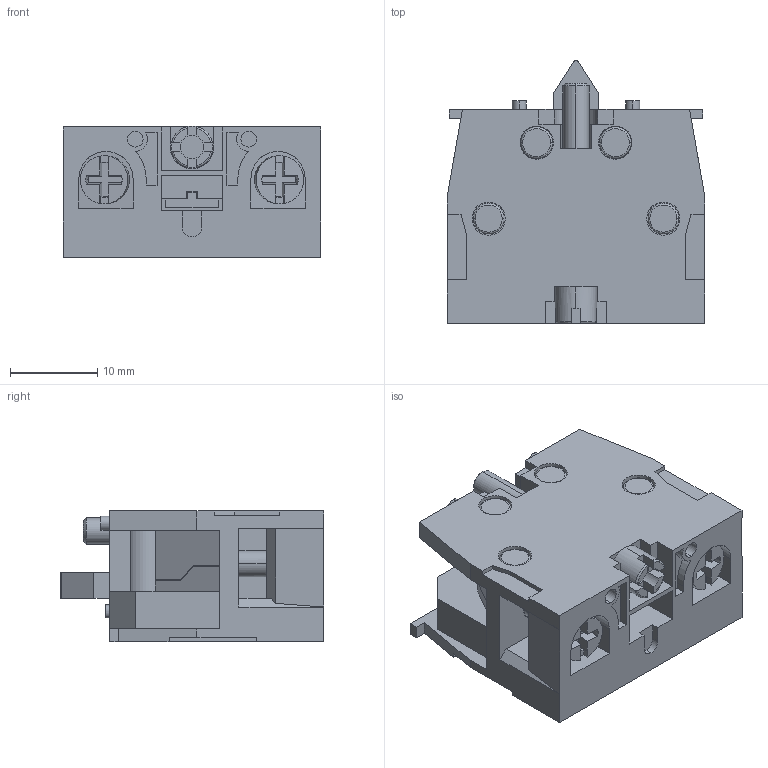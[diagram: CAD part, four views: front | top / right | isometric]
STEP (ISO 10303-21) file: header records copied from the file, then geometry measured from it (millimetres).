
FILE_DESCRIPTION (( 'STEP AP214' ), '1' );
FILE_NAME ('3D 斁麧錪 MTB2-BE11.STEP', '2017-03-03T07:00:25', ( 'adm' ), ( 'MICROSOFT' ), 'SwSTEP 2.0', 'SolidWorks 2011', '' );
FILE_SCHEMA (( 'AUTOMOTIVE_DESIGN' ));
Length unit declared in the file: millimetre
Products named in the file (1): 3D 斁麧錪 MTB2-BE11
Bounding box: 29.5 x 30.14 x 15.1 mm (x, y, z)
Volume: 8415.8 mm3; surface area: 5423.6 mm2
Topology: 2 solids, 2 shells, 363 faces, 952 edges, 620 vertices
Faces by surface type: plane 250, cylinder 85, torus 16, cone 12
Entity records: 11284 total; most frequent: CARTESIAN_POINT 2084, ORIENTED_EDGE 1904, DIRECTION 1876, EDGE_CURVE 952, VECTOR 670, LINE 670, VERTEX_POINT 620, AXIS2_PLACEMENT_3D 603
